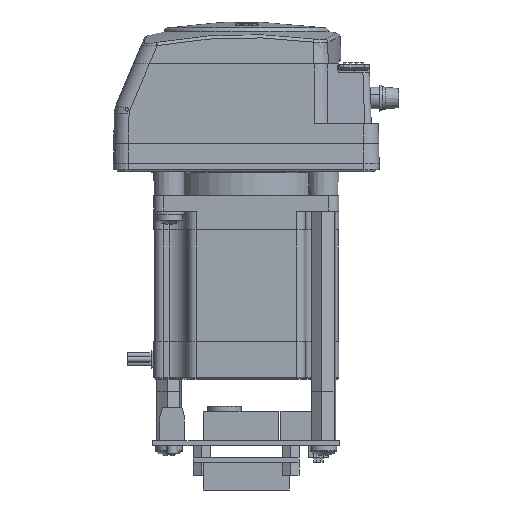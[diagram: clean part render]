
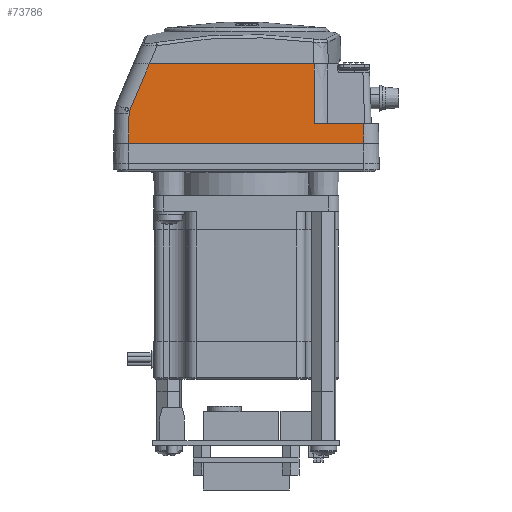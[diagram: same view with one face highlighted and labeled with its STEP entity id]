
A CAD part, left-side view. The second image highlights one B-rep face of the part: STEP entity #73786.
In plain terms, the highlighted planar face has unit normal (-1, 0, 0.018).
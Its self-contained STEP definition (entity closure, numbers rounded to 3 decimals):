
#231 = CARTESIAN_POINT ( 'NONE',  ( -31.248, 35.566, 18.969 ) ) ;
#799 = CARTESIAN_POINT ( 'NONE',  ( -31.422, 35.923, 8.95 ) ) ;
#818 = EDGE_CURVE ( 'NONE', #44631, #6016, #32326, .T. ) ;
#2116 = EDGE_CURVE ( 'NONE', #44603, #55553, #20077, .T. ) ;
#2349 = EDGE_CURVE ( 'NONE', #33916, #44603, #80642, .T. ) ;
#5460 = DIRECTION ( 'NONE',  ( 0., 1., 0. ) ) ;
#6016 = VERTEX_POINT ( 'NONE', #63692 ) ;
#6356 = CARTESIAN_POINT ( 'NONE',  ( -31.318, -20.937, 14.95 ) ) ;
#6689 = LINE ( 'NONE', #63317, #70995 ) ;
#7956 = VECTOR ( 'NONE', #68820, 1000. ) ;
#9223 = VECTOR ( 'NONE', #33509, 1000. ) ;
#10888 = ORIENTED_EDGE ( 'NONE', *, *, #78740, .T. ) ;
#11959 = VERTEX_POINT ( 'NONE', #231 ) ;
#12848 = CARTESIAN_POINT ( 'NONE',  ( -31.249, 35.594, 18.903 ) ) ;
#13132 = CARTESIAN_POINT ( 'NONE',  ( -31., -20.748, 33.15 ) ) ;
#13472 = CARTESIAN_POINT ( 'NONE',  ( -31., 29.547, 33.15 ) ) ;
#14099 = LINE ( 'NONE', #12848, #9223 ) ;
#16247 = CARTESIAN_POINT ( 'NONE',  ( -31., -20.748, 33.15 ) ) ;
#16764 = CARTESIAN_POINT ( 'NONE',  ( -31.253, 35.692, 18.673 ) ) ;
#17003 = EDGE_CURVE ( 'NONE', #57118, #11959, #14099, .T. ) ;
#17851 = FACE_OUTER_BOUND ( 'NONE', #34467, .T. ) ;
#20077 = B_SPLINE_CURVE_WITH_KNOTS ( 'NONE', 3,
 ( #6356, #51559, #45235, #70961, #32139, #58288, #13132 ),
 .UNSPECIFIED., .F., .F.,
 ( 4, 3, 4 ),
 ( 0., 0.009, 0.018 ),
 .UNSPECIFIED. ) ;
#21764 = VECTOR ( 'NONE', #67532, 1000. ) ;
#25327 = CARTESIAN_POINT ( 'NONE',  ( -31.318, -20.937, 14.95 ) ) ;
#26498 = ORIENTED_EDGE ( 'NONE', *, *, #2116, .T. ) ;
#29083 = LINE ( 'NONE', #40925, #21764 ) ;
#30318 = DIRECTION ( 'NONE',  ( -0.017, 0.017, -1. ) ) ;
#31748 = CARTESIAN_POINT ( 'NONE',  ( -31., 0., 33.15 ) ) ;
#32139 = CARTESIAN_POINT ( 'NONE',  ( -31.106, -20.808, 27.056 ) ) ;
#32326 = LINE ( 'NONE', #39520, #71101 ) ;
#32658 = EDGE_CURVE ( 'NONE', #6016, #33916, #29083, .T. ) ;
#33509 = DIRECTION ( 'NONE',  ( -0.016, 0.391, -0.92 ) ) ;
#33916 = VERTEX_POINT ( 'NONE', #40425 ) ;
#34467 = EDGE_LOOP ( 'NONE', ( #51767, #26498, #68969, #50475, #10888, #66355, #46186, #63309 ) ) ;
#35844 = CARTESIAN_POINT ( 'NONE',  ( -30.989, 35.49, 33.769 ) ) ;
#39520 = CARTESIAN_POINT ( 'NONE',  ( -31.422, 0., 8.95 ) ) ;
#40425 = CARTESIAN_POINT ( 'NONE',  ( -31.318, -35.818, 14.95 ) ) ;
#40925 = CARTESIAN_POINT ( 'NONE',  ( -30.989, -35.49, 33.769 ) ) ;
#42328 =( BOUNDED_CURVE ( )  B_SPLINE_CURVE ( 3, ( #61511, #16764, #49690, #75385 ),
 .UNSPECIFIED., .F., .F. ) 
 B_SPLINE_CURVE_WITH_KNOTS ( ( 4, 4 ),
 ( 4.311, 4.695 ),
 .UNSPECIFIED. ) 
 CURVE ( )  GEOMETRIC_REPRESENTATION_ITEM ( )  RATIONAL_B_SPLINE_CURVE ( ( 1., 0.988, 0.988, 1. ) ) 
 REPRESENTATION_ITEM ( '' )  );
#44603 = VERTEX_POINT ( 'NONE', #25327 ) ;
#44631 = VERTEX_POINT ( 'NONE', #799 ) ;
#45074 = CARTESIAN_POINT ( 'NONE',  ( -31.264, 35.765, 18.036 ) ) ;
#45235 = CARTESIAN_POINT ( 'NONE',  ( -31.212, -20.871, 20.989 ) ) ;
#45427 = DIRECTION ( 'NONE',  ( 0., -1., 0. ) ) ;
#46186 = ORIENTED_EDGE ( 'NONE', *, *, #818, .T. ) ;
#48792 = EDGE_CURVE ( 'NONE', #48867, #44631, #61172, .T. ) ;
#48867 = VERTEX_POINT ( 'NONE', #45074 ) ;
#49690 = CARTESIAN_POINT ( 'NONE',  ( -31.258, 35.759, 18.358 ) ) ;
#50475 = ORIENTED_EDGE ( 'NONE', *, *, #17003, .T. ) ;
#51175 = DIRECTION ( 'NONE',  ( 0.017, 0., 1. ) ) ;
#51559 = CARTESIAN_POINT ( 'NONE',  ( -31.265, -20.904, 17.97 ) ) ;
#51767 = ORIENTED_EDGE ( 'NONE', *, *, #2349, .T. ) ;
#55553 = VERTEX_POINT ( 'NONE', #16247 ) ;
#57118 = VERTEX_POINT ( 'NONE', #13472 ) ;
#57190 = VECTOR ( 'NONE', #30318, 1000. ) ;
#57492 = DIRECTION ( 'NONE',  ( -1., 0., 0.017 ) ) ;
#58288 = CARTESIAN_POINT ( 'NONE',  ( -31.053, -20.777, 30.103 ) ) ;
#61172 = LINE ( 'NONE', #35844, #57190 ) ;
#61511 = CARTESIAN_POINT ( 'NONE',  ( -31.248, 35.566, 18.969 ) ) ;
#63309 = ORIENTED_EDGE ( 'NONE', *, *, #32658, .T. ) ;
#63317 = CARTESIAN_POINT ( 'NONE',  ( -31., 0., 33.15 ) ) ;
#63692 = CARTESIAN_POINT ( 'NONE',  ( -31.422, -35.923, 8.95 ) ) ;
#66355 = ORIENTED_EDGE ( 'NONE', *, *, #48792, .T. ) ;
#67532 = DIRECTION ( 'NONE',  ( 0.017, 0.017, 1. ) ) ;
#68820 = DIRECTION ( 'NONE',  ( 0., 1., 0. ) ) ;
#68969 = ORIENTED_EDGE ( 'NONE', *, *, #71590, .T. ) ;
#70961 = CARTESIAN_POINT ( 'NONE',  ( -31.16, -20.84, 24.009 ) ) ;
#70995 = VECTOR ( 'NONE', #5460, 1000. ) ;
#71101 = VECTOR ( 'NONE', #45427, 1000. ) ;
#71590 = EDGE_CURVE ( 'NONE', #55553, #57118, #6689, .T. ) ;
#73786 = ADVANCED_FACE ( 'NONE', ( #17851 ), #75651, .T. ) ;
#75385 = CARTESIAN_POINT ( 'NONE',  ( -31.264, 35.765, 18.036 ) ) ;
#75651 = PLANE ( 'NONE',  #80604 ) ;
#78740 = EDGE_CURVE ( 'NONE', #11959, #48867, #42328, .T. ) ;
#80604 = AXIS2_PLACEMENT_3D ( 'NONE', #31748, #57492, #51175 ) ;
#80642 = LINE ( 'NONE', #81873, #7956 ) ;
#81873 = CARTESIAN_POINT ( 'NONE',  ( -31.318, 0., 14.95 ) ) ;
